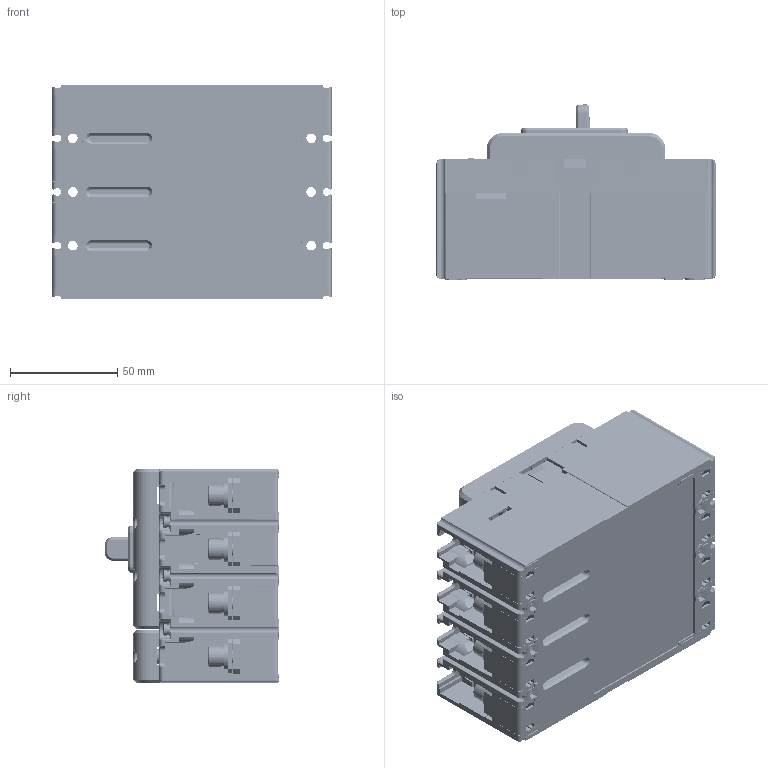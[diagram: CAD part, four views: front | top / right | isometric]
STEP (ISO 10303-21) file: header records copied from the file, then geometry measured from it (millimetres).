
FILE_DESCRIPTION((''),'2;1');
FILE_NAME('22580113P01-P40_ASM_2_ASM','2022-02-22T',('yunfei.liu'),(''),'PRO/ENGINEER BY PARAMETRIC TECHNOLOGY CORPORATION, 2015440','PRO/ENGINEER BY PARAMETRIC TECHNOLOGY CORPORATION, 2015440','');
FILE_SCHEMA(('CONFIG_CONTROL_DESIGN'));
Products named in the file (48): JZ-5024026400_1; GB_T809-M3X10_2; 5024026400_ASM_1_ASM; 8315057600_2; 8315057700_1; 8315057800_1; 8253057200_1; 8282071100_1; 7020100411_GB13806_2_ST2_9X8_A_; 5315042600_ASM_1_ASM; 8551032800_1; 8550072800_2; 5551069200_ASM_1_ASM; 8104031600_1; 8595008600_1; 8742101600_1; 8964013300_2; 5551069300_ASM_1_ASM; 8585063700_1; 8551045300_1; 5510013100_ASM_1_ASM; 85920008P01_2; 55510691P01_ASM_2_ASM; 55510694P01_ASM_2_ASM; 80400256P01_1; 80400256P02_1; 8270025500_1; 8231016700_1; 67600085P01_ASM_1_ASM; 6760008600_ASM_1_ASM; 8585063800_1; 8742101200_2; 8760013400_1; 7010100312J_GB_T823_M3X20_2; 7090300201_GB_T93_3_2; GB_T97_4_3_2; 5850006000_ASM_1_ASM; 7010600302J_GB_T70_1_M6X16_2; 7090300601J_GB_T93_6_2; GB_T97_1-6_1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
Assembly tree (91 placements, depth 5):
  22580113P01-P40_ASM_2_ASM
    5024026400_ASM_1_ASM
      JZ-5024026400_1
      GB_T809-M3X10_2  x6
    5315042600_ASM_1_ASM
      8315057600_2
      8315057700_1
      8315057800_1
      8253057200_1
      8282071100_1
      7020100411_GB13806_2_ST2_9X8_A_  x6
    5551069300_ASM_1_ASM  x3
      5551069200_ASM_1_ASM
        8551032800_1
        8550072800_2
      8104031600_1
      8595008600_1
      8742101600_1
      8964013300_2
    5510013100_ASM_1_ASM
      8585063700_1
      8551045300_1
    6760008600_ASM_1_ASM
      55510694P01_ASM_2_ASM
        55510691P01_ASM_2_ASM  x3
          85920008P01_2
          8585063700_1
      67600085P01_ASM_1_ASM
        80400256P01_1
        80400256P02_1
        8270025500_1
        8231016700_1
    8585063800_1  x8
    8742101200_2  x4
    8760013400_1  x8
    5850006000_ASM_1_ASM  x6
      7010100312J_GB_T823_M3X20_2
      7090300201_GB_T93_3_2
      GB_T97_4_3_2
    5850012200_ASM_1_ASM  x8
      7010600302J_GB_T70_1_M6X16_2
      7090300601J_GB_T93_6_2
      GB_T97_1-6_1
    5253022600_ASM_2_ASM
      8253057100_2
      8865077900_AF4_2
      8865078000_AF4_2
    8742102100_1
    8750029600_1
Bounding box: 130 x 81.49 x 100 mm (x, y, z)
Volume: 291548.4 mm3; surface area: 284338.4 mm2
Topology: 116 solids, 156 shells, 8734 faces, 23527 edges, 15005 vertices
Faces by surface type: plane 4933, cylinder 2715, torus 292, cone 235, sphere 222, bspline 179, extrusion 158
Entity records: 220903 total; most frequent: CARTESIAN_POINT 56091, ORIENTED_EDGE 35026, DIRECTION 33497, EDGE_CURVE 17525, VECTOR 11613, LINE 11455, VERTEX_POINT 11311, AXIS2_PLACEMENT_3D 10942
